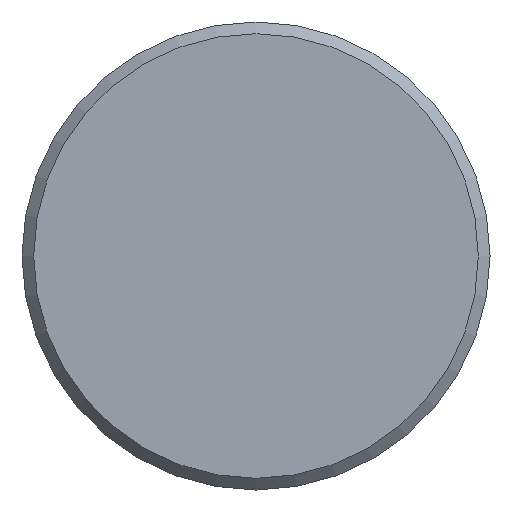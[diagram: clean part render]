
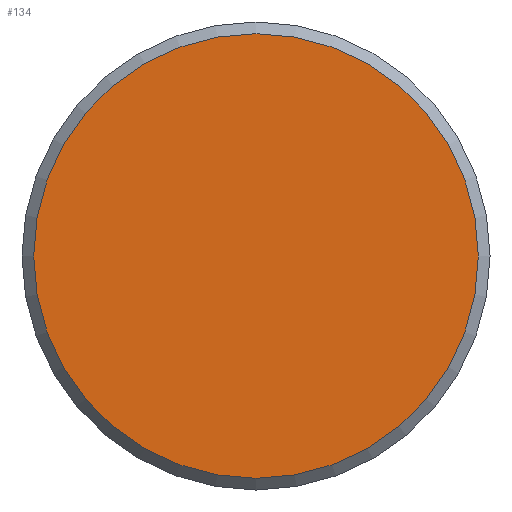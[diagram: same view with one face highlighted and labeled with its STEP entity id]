
A CAD part, front view. The second image highlights one B-rep face of the part: STEP entity #134.
In plain terms, the highlighted planar face has unit normal (0, -1, 0).
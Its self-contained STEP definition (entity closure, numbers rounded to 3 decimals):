
#19=PLANE('',#161);
#28=FACE_OUTER_BOUND('',#38,.T.);
#38=EDGE_LOOP('',(#105));
#57=CIRCLE('',#158,0.95);
#70=VERTEX_POINT('',#235);
#82=EDGE_CURVE('',#70,#70,#57,.T.);
#105=ORIENTED_EDGE('',*,*,#82,.F.);
#134=ADVANCED_FACE('',(#28),#19,.F.);
#158=AXIS2_PLACEMENT_3D('',#237,#186,#187);
#161=AXIS2_PLACEMENT_3D('',#242,#193,#194);
#186=DIRECTION('center_axis',(0.,1.,0.));
#187=DIRECTION('ref_axis',(1.,0.,0.));
#193=DIRECTION('center_axis',(0.,1.,0.));
#194=DIRECTION('ref_axis',(1.,0.,0.));
#235=CARTESIAN_POINT('',(-0.95,0.,0.));
#237=CARTESIAN_POINT('Origin',(0.,0.,0.));
#242=CARTESIAN_POINT('Origin',(0.,0.,0.));
